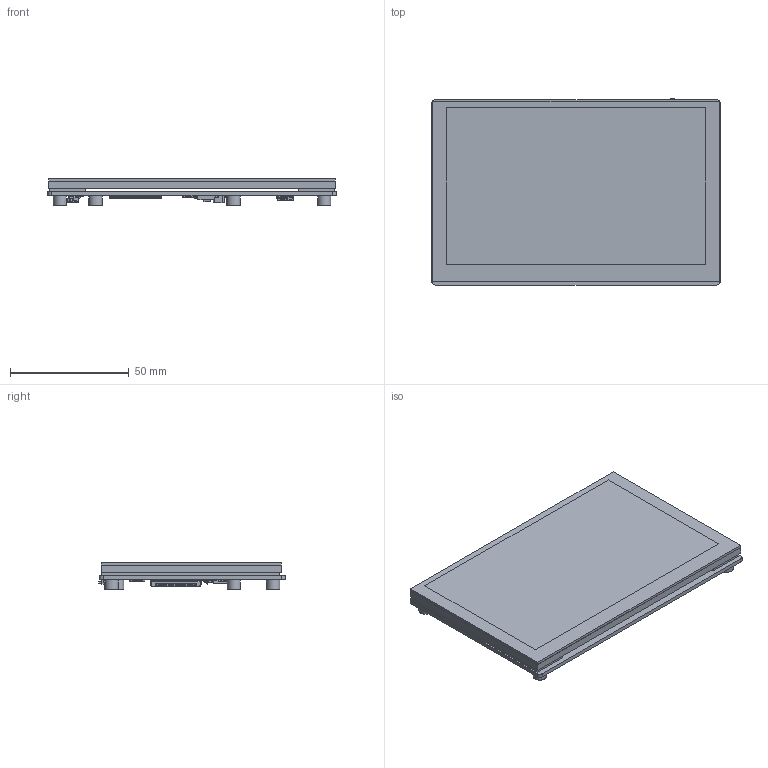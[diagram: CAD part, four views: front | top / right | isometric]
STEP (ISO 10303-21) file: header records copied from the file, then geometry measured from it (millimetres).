
FILE_DESCRIPTION(/* description */ ('CAx-IF Rec.Pracs.---Representation and Presentation of Product Manufacturing Information (PMI)---4.0---2014-10-13','CAx-IF Rec.Pracs.---3D Tessellated Geometry---0.4---2014-09-14','2;1'),/* implementation_level */ '2;1');
FILE_NAME(/* name */ 'DSI5_FAN_GT911_MACH',/* time_stamp */ '2024-04-16T17:41:30+08:00',/* author */ (''),/* organization */ (''),/* preprocessor_version */ 'ST-DEVELOPER v16.7',/* originating_system */ $,/* authorisation */ $);
FILE_SCHEMA (('AP242_MANAGED_MODEL_BASED_3D_ENGINEERING_MIM_LF { 1 0 10303 442 20130219 1 4 }'));
Products named in the file (5): DSI5_FAN_GT911_MACH; PASTE; 5inch_TOUCH; DSI5_FAN_GT911_PCB; 5inch_screen
Assembly tree (5 placements, depth 2):
  DSI5_FAN_GT911_MACH
    PASTE  x2
    5inch_TOUCH
    DSI5_FAN_GT911_PCB
    5inch_screen
Bounding box: 121.11 x 78.19 x 11.33 mm (x, y, z)
Volume: 65734.5 mm3; surface area: 95690.7 mm2
Topology: 63 solids, 63 shells, 7051 faces, 19101 edges, 12254 vertices
Faces by surface type: plane 4428, bspline 1461, cylinder 882, sphere 144, cone 114, torus 22
Full cylindrical faces by diameter (mm): 0.8 x2, 0.9 x6, 2.05 x8, 4.09 x8, 4.15 x8, 5.56 x8
Entity records: 326940 total; most frequent: CARTESIAN_POINT 131277, ORIENTED_EDGE 37708, DIRECTION 28924, EDGE_CURVE 18854, LINE 14194, VECTOR 14194, VERTEX_POINT 12122, AXIS2_PLACEMENT_3D 7405
